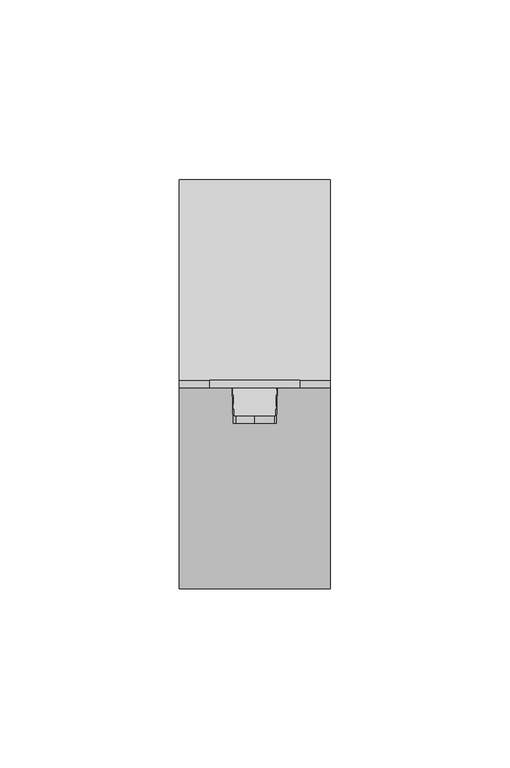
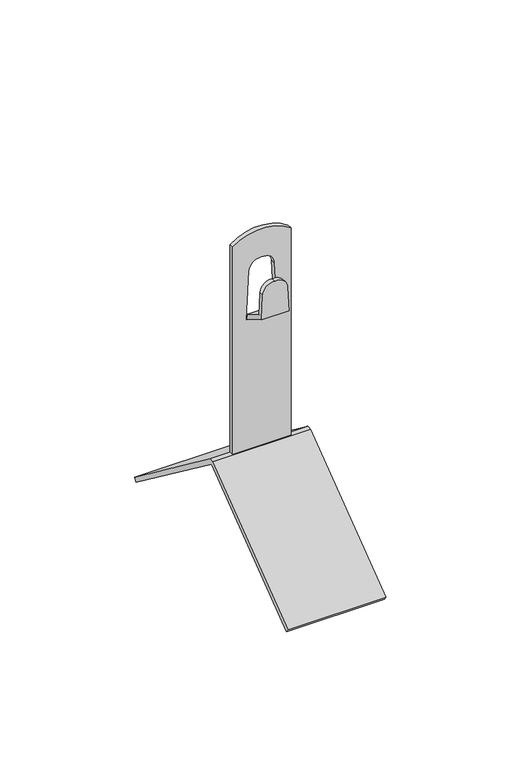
"""IFC4 building model written with IfcOpenShell, lengths in millimetres: proxy geometry, КНС_ЗажимУгловойКоньковый _DKC : ND2202CU_Медь_100 мм."""

from ifc_helpers import new_model, si_unit, point, frame, frame_2d, origin, place, context, project, spatial, polyline, circle_curve, trimmed, segment, composite_curve, outline, extrude, source, transform, mapped, element, save
from ifc_brep_helpers import plane_surface, cylinder_surface, advanced_brep


def security_devices_ce004484(model_context):
    return source(origin(), model_context, "Body", "SolidModel", [
        extrude(outline(polyline([(55.8136019, -42.0), (0.0, 0.0), (-55.8136019, -42.0), (-57.0000602, -40.3898066), (-1.0, 1.7505042), (1.0, 1.7505042), (57.0000602, -40.3898066), (55.8136019, -42.0)])), frame((-21.0, 0.0, 0.0), z_axis=(1.0, 0.0, 0.0), x_axis=(0.0, 1.0, 0.0)), (0.0, 0.0, 1.0), 42.0),
        extrude(outline(composite_curve([segment(polyline([(1.7505042, -12.5), (1.7505042, 12.5), (95.874537, 12.5)]), True, "CONTINUOUS"), segment(trimmed(circle_curve(frame_2d((79.0, 0.0)), 21.0), [point((95.874537, 12.5))], [point((95.874537, -12.5))], False, "CARTESIAN"), True, "CONTINUOUS"), segment(polyline([(95.874537, -12.5), (1.7505042, -12.5)]), True, "CONTINUOUS")], self_intersect=False), holes=[composite_curve([segment(trimmed(circle_curve(frame_2d((82.4155168, -0.5834648)), 4.7876253), [point((82.6660817, -5.3645288))], [point((87.1674559, 0.0))], True, "CARTESIAN"), True, "CONTINUOUS"), segment(trimmed(circle_curve(frame_2d((82.4155168, 0.5834648)), 4.7876253), [point((87.1674559, 0.0))], [point((82.6660817, 5.3645288))], True, "CARTESIAN"), True, "CONTINUOUS"), segment(polyline([(82.6660817, 5.3645288), (61.0, 6.5), (61.0, -6.5), (82.6660817, -5.3645288)]), True, "CONTINUOUS")], self_intersect=False)]), frame((0.0, -1.0, 0.0), z_axis=(0.0, 1.0, 0.0), x_axis=(0.0, 0.0, 1.0)), (0.0, 0.0, 1.0), 2.0),
        advanced_brep(
        [(5.3645288, -11.0, 77.6660817), (0.0, -11.0, 82.1674559), (-5.3645288, -11.0, 77.6660817), (-5.9353846, -11.0, 66.7735027), (5.9353846, -11.0, 66.7735027), (6.2379611, -1.0, 61.0), (-6.2379611, -1.0, 61.0), (-6.1169305, -1.0, 63.3094011), (6.1169305, -1.0, 63.3094011), (-5.3645288, -9.0, 77.6660817), (-5.8748694, -9.0, 67.9282032), (5.8748694, -9.0, 67.9282032), (5.3645288, -9.0, 77.6660817), (0.0, -9.0, 82.1674559)],
        [
            (0, 1, circle_curve(frame((0.5834648, -11.0, 77.4155168), z_axis=(0.0, -1.0, 0.0), x_axis=(1.0, 0.0, 0.0)), 4.7876253)),
            (1, 2, circle_curve(frame((-0.5834648, -11.0, 77.4155168), z_axis=(0.0, -1.0, 0.0), x_axis=(1.0, 0.0, 0.0)), 4.7876253)),
            (2, 3),
            (3, 4),
            (4, 0),
            (5, 6),
            (6, 7),
            (7, 8),
            (8, 5),
            (2, 9),
            (9, 10),
            (10, 7),
            (6, 3),
            (4, 5),
            (8, 11),
            (11, 12),
            (12, 0),
            (12, 13, circle_curve(frame((0.5834648, -9.0, 77.4155168), z_axis=(0.0, -1.0, 0.0), x_axis=(1.0, 0.0, 0.0)), 4.7876253)),
            (13, 1),
            (13, 9, circle_curve(frame((-0.5834648, -9.0, 77.4155168), z_axis=(0.0, -1.0, 0.0), x_axis=(1.0, 0.0, 0.0)), 4.7876253)),
            (10, 11),
        ],
        [
            plane_surface(frame((-6.2414541, -11.0, 60.9333499), z_axis=(0.0, -1.0, 0.0), x_axis=(-0.05233595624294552, 0.0, -0.9986295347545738))),
            plane_surface(frame((-6.2414541, -1.0, 60.9333499), z_axis=(0.0, 1.0, 0.0), x_axis=(0.05233595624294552, 0.0, 0.9986295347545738))),
            plane_surface(frame((-5.3645288, -11.0, 77.6660817), z_axis=(-0.9986295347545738, 0.0, 0.05233595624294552), x_axis=(0.0, 1.0, 0.0))),
            plane_surface(frame((6.2379611, -11.0, 61.0), z_axis=(0.9986295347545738, 0.0, 0.05233595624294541), x_axis=(0.0, 1.0, 0.0))),
            cylinder_surface(frame((0.5834648, -1.0, 77.4155168), z_axis=(0.0, -1.0, 0.0), x_axis=(1.0, 0.0, 0.0)), 4.7876253),
            cylinder_surface(frame((-0.5834648, -1.0, 77.4155168), z_axis=(0.0, -1.0, 0.0), x_axis=(1.0, 0.0, 0.0)), 4.7876253),
            plane_surface(frame((12.5, -1.0, 61.0), z_axis=(0.0, -0.5000000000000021, -0.8660254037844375), x_axis=(-1.0, 0.0, 0.0))),
            plane_surface(frame((12.5, -9.0, 67.9282032), z_axis=(0.0, 0.5000000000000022, 0.8660254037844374), x_axis=(-1.0, 0.0, 0.0))),
            plane_surface(frame((12.5, -9.0, 92.9372685), z_axis=(0.0, 1.0, 0.0), x_axis=(-1.0, 0.0, 0.0))),
        ],
        [
            (0, [[1, 2, 3, 4, 5]]),
            (1, [[6, 7, 8, 9]]),
            (2, [[-3, 10, 11, 12, -7, 13]]),
            (3, [[-5, 14, -9, 15, 16, 17]]),
            (4, [[-1, -17, 18, 19]]),
            (5, [[-2, -19, 20, -10]]),
            (6, [[-4, -13, -6, -14]]),
            (7, [[21, -15, -8, -12]]),
            (8, [[-21, -11, -20, -18, -16]]),
        ],
    ),
    ])


if __name__ == "__main__":
    model = new_model("IFC4")
    model_context = context("Model", 3, world=origin())
    ifc_project = project(units=[si_unit("LENGTHUNIT", "METRE", prefix="MILLI")], contexts=[model_context])
    site = spatial("IfcSite", under=ifc_project)
    building = spatial("IfcBuilding", under=site)
    placement = place(None, origin())
    security_devices_shape = security_devices_ce004484(model_context)
    element("IfcBuildingElementProxy", 1, Name="КНС_ЗажимУгловойКоньковый _DKC : ND2202CU_Медь_100 мм", ObjectType="КНС_ЗажимУгловойКоньковый _DKC : ND2202CU_Медь_100 мм", at=placement, inside=building, context=model_context, shape_type="MappedRepresentation", body=[
        mapped(security_devices_shape, transform((0.0, 0.0, 0.0), x_axis=(1.0, 0.0, 0.0), y_axis=(0.0, 1.0, 0.0), z_axis=(0.0, 0.0, 1.0))),
    ])
    save(model, "model.ifc")
